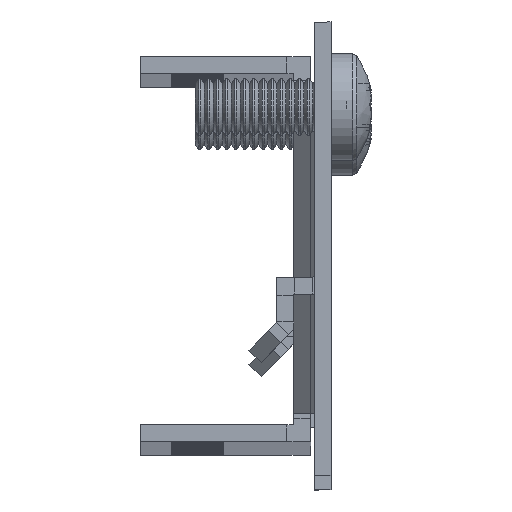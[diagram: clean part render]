
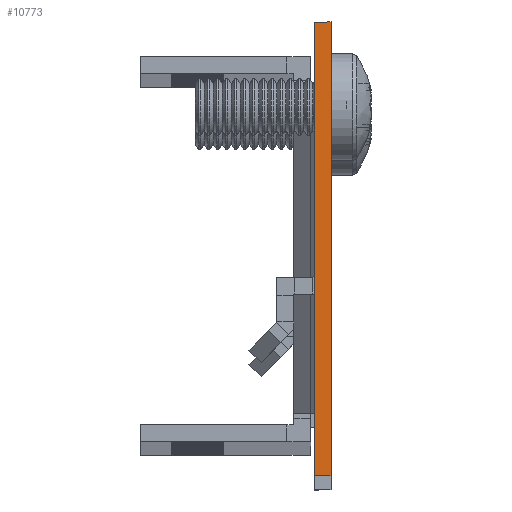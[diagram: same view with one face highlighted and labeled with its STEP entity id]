
A CAD part, top view. The second image highlights one B-rep face of the part: STEP entity #10773.
In plain terms, the highlighted planar face has unit normal (0, 0, 1) as drawn and (-1, 0, 0) by its records, which use the part's own axes.
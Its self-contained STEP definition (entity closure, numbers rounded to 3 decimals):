
#8988 = VERTEX_POINT('',#8989);
#8989 = CARTESIAN_POINT('',(-375.022,20.,1.802));
#8995 = EDGE_CURVE('',#8996,#8988,#8998,.T.);
#8996 = VERTEX_POINT('',#8997);
#8997 = CARTESIAN_POINT('',(-375.022,-20.,1.802));
#8998 = LINE('',#8999,#9000);
#8999 = CARTESIAN_POINT('',(-375.022,14.5,1.802));
#9000 = VECTOR('',#9001,1.);
#9001 = DIRECTION('',(-0.,1.,0.));
#9097 = EDGE_CURVE('',#9098,#9100,#9102,.T.);
#9098 = VERTEX_POINT('',#9099);
#9099 = CARTESIAN_POINT('',(-375.022,-20.,0.302));
#9100 = VERTEX_POINT('',#9101);
#9101 = CARTESIAN_POINT('',(-375.022,20.,0.302));
#9102 = LINE('',#9103,#9104);
#9103 = CARTESIAN_POINT('',(-375.022,0.,
    0.302));
#9104 = VECTOR('',#9105,1.);
#9105 = DIRECTION('',(0.,1.,0.));
#10773 = ADVANCED_FACE('',(#10774),#10790,.T.);
#10774 = FACE_BOUND('',#10775,.T.);
#10775 = EDGE_LOOP('',(#10776,#10777,#10783,#10784));
#10776 = ORIENTED_EDGE('',*,*,#9097,.F.);
#10777 = ORIENTED_EDGE('',*,*,#10778,.T.);
#10778 = EDGE_CURVE('',#9098,#8996,#10779,.T.);
#10779 = LINE('',#10780,#10781);
#10780 = CARTESIAN_POINT('',(-375.022,-20.,0.302));
#10781 = VECTOR('',#10782,1.);
#10782 = DIRECTION('',(0.,0.,1.));
#10783 = ORIENTED_EDGE('',*,*,#8995,.T.);
#10784 = ORIENTED_EDGE('',*,*,#10785,.F.);
#10785 = EDGE_CURVE('',#9100,#8988,#10786,.T.);
#10786 = LINE('',#10787,#10788);
#10787 = CARTESIAN_POINT('',(-375.022,20.,0.302));
#10788 = VECTOR('',#10789,1.);
#10789 = DIRECTION('',(0.,0.,1.));
#10790 = PLANE('',#10791);
#10791 = AXIS2_PLACEMENT_3D('',#10792,#10793,#10794);
#10792 = CARTESIAN_POINT('',(-375.022,14.5,1.802));
#10793 = DIRECTION('',(-1.,0.,0.));
#10794 = DIRECTION('',(0.,0.,1.));
